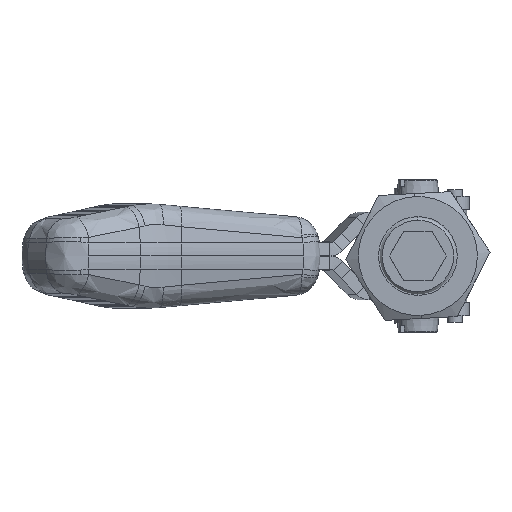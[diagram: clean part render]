
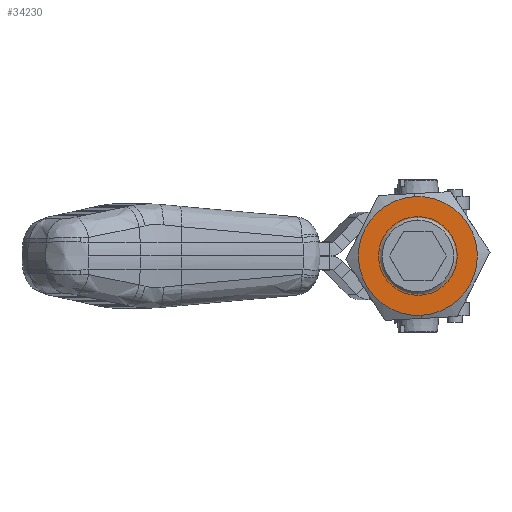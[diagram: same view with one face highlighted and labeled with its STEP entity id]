
A CAD part, left-side view. The second image highlights one B-rep face of the part: STEP entity #34230.
In plain terms, the highlighted planar face has unit normal (-1, 0, 0) as drawn and (0, 1, 0) by its records, which use the part's own axes.
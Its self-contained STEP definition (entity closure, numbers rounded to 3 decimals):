
#1753 = FACE_BOUND ( 'NONE', #14828, .T. ) ;
#1959 = ORIENTED_EDGE ( 'NONE', *, *, #27298, .F. ) ;
#1995 = CIRCLE ( 'NONE', #27005, 12.067 ) ;
#2534 = VERTEX_POINT ( 'NONE', #30331 ) ;
#2903 = CARTESIAN_POINT ( 'NONE',  ( 0., 4., 0. ) ) ;
#3039 = EDGE_CURVE ( 'NONE', #21921, #19182, #21135, .T. ) ;
#3963 = CARTESIAN_POINT ( 'NONE',  ( 0., 4., 0. ) ) ;
#4127 = DIRECTION ( 'NONE',  ( 0., 1., 0. ) ) ;
#4687 = AXIS2_PLACEMENT_3D ( 'NONE', #11223, #13912, #32723 ) ;
#4919 = VERTEX_POINT ( 'NONE', #11889 ) ;
#5101 = CARTESIAN_POINT ( 'NONE',  ( 0., 4., 12.067 ) ) ;
#5216 = CARTESIAN_POINT ( 'NONE',  ( 0., 4., 0. ) ) ;
#5611 = DIRECTION ( 'NONE',  ( 0., 0., 1. ) ) ;
#6271 = EDGE_CURVE ( 'NONE', #4919, #2534, #26461, .T. ) ;
#6666 = DIRECTION ( 'NONE',  ( 0., 0., -1. ) ) ;
#7934 = DIRECTION ( 'NONE',  ( 0., 0., -1. ) ) ;
#11223 = CARTESIAN_POINT ( 'NONE',  ( -7.332, 4., -12.7 ) ) ;
#11889 = CARTESIAN_POINT ( 'NONE',  ( 0., 4., 7.25 ) ) ;
#13181 = EDGE_CURVE ( 'NONE', #19182, #21921, #1995, .T. ) ;
#13912 = DIRECTION ( 'NONE',  ( 0., 1., 0. ) ) ;
#14828 = EDGE_LOOP ( 'NONE', ( #17703, #1959 ) ) ;
#16378 = PLANE ( 'NONE',  #4687 ) ;
#17703 = ORIENTED_EDGE ( 'NONE', *, *, #6271, .F. ) ;
#18399 = EDGE_LOOP ( 'NONE', ( #32782, #31063 ) ) ;
#19182 = VERTEX_POINT ( 'NONE', #5101 ) ;
#20203 = CARTESIAN_POINT ( 'NONE',  ( 0., 4., 0. ) ) ;
#21135 = CIRCLE ( 'NONE', #28834, 12.067 ) ;
#21682 = DIRECTION ( 'NONE',  ( 0., 1., 0. ) ) ;
#21921 = VERTEX_POINT ( 'NONE', #29541 ) ;
#22222 = AXIS2_PLACEMENT_3D ( 'NONE', #2903, #21682, #5611 ) ;
#22607 = AXIS2_PLACEMENT_3D ( 'NONE', #20203, #4127, #22920 ) ;
#22751 = DIRECTION ( 'NONE',  ( 0., -1., 0. ) ) ;
#22920 = DIRECTION ( 'NONE',  ( 0., 0., 1. ) ) ;
#23174 = FACE_OUTER_BOUND ( 'NONE', #18399, .T. ) ;
#24006 = DIRECTION ( 'NONE',  ( 0., -1., 0. ) ) ;
#26461 = CIRCLE ( 'NONE', #22607, 7.25 ) ;
#27005 = AXIS2_PLACEMENT_3D ( 'NONE', #3963, #22751, #6666 ) ;
#27298 = EDGE_CURVE ( 'NONE', #2534, #4919, #30411, .T. ) ;
#28834 = AXIS2_PLACEMENT_3D ( 'NONE', #5216, #24006, #7934 ) ;
#29541 = CARTESIAN_POINT ( 'NONE',  ( 0., 4., -12.067 ) ) ;
#30331 = CARTESIAN_POINT ( 'NONE',  ( 0., 4., -7.25 ) ) ;
#30411 = CIRCLE ( 'NONE', #22222, 7.25 ) ;
#31063 = ORIENTED_EDGE ( 'NONE', *, *, #13181, .F. ) ;
#32723 = DIRECTION ( 'NONE',  ( 0., 0., 1. ) ) ;
#32782 = ORIENTED_EDGE ( 'NONE', *, *, #3039, .F. ) ;
#34230 = ADVANCED_FACE ( 'NONE', ( #23174, #1753 ), #16378, .T. ) ;
